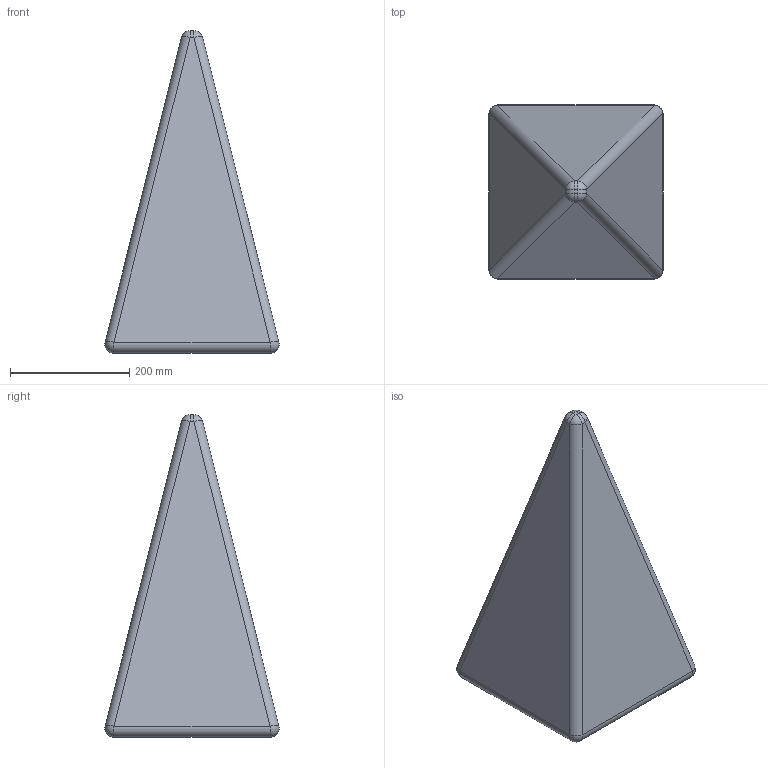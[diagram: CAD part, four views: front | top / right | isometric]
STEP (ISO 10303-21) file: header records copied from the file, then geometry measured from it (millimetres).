
FILE_DESCRIPTION(/* description */ (''),/* implementation_level */ '2;1');
FILE_NAME(/* name */ 'C:/Users/LukasGröber/GMS Cloud/Groeber Mannheim Lichtwerke - Dokumente/Marketing/Produkte/3D Daten/Pyramide/Pyramide 54.step',/* time_stamp */ '2022-07-08T12:36:46+02:00',/* author */ (''),/* organization */ (''),/* preprocessor_version */ 'ST-DEVELOPER v19',/* originating_system */ 'Autodesk Translation Framework v11.7.0.108',/* authorisation */ '');
FILE_SCHEMA (('AUTOMOTIVE_DESIGN { 1 0 10303 214 3 1 1 }'));
Length unit declared in the file: millimetre
Products named in the file (1): Pyramide 54
Bounding box: 291.48 x 291.48 x 540 mm (x, y, z)
Volume: 17787442.7 mm3; surface area: 431320.2 mm2
Topology: 1 solids, 1 shells, 26 faces, 48 edges, 24 vertices
Faces by surface type: cylinder 12, sphere 8, plane 6
Entity records: 664 total; most frequent: DIRECTION 126, CARTESIAN_POINT 99, ORIENTED_EDGE 96, AXIS2_PLACEMENT_3D 51, EDGE_CURVE 48, FACE_OUTER_BOUND 26, EDGE_LOOP 26, ADVANCED_FACE 26
